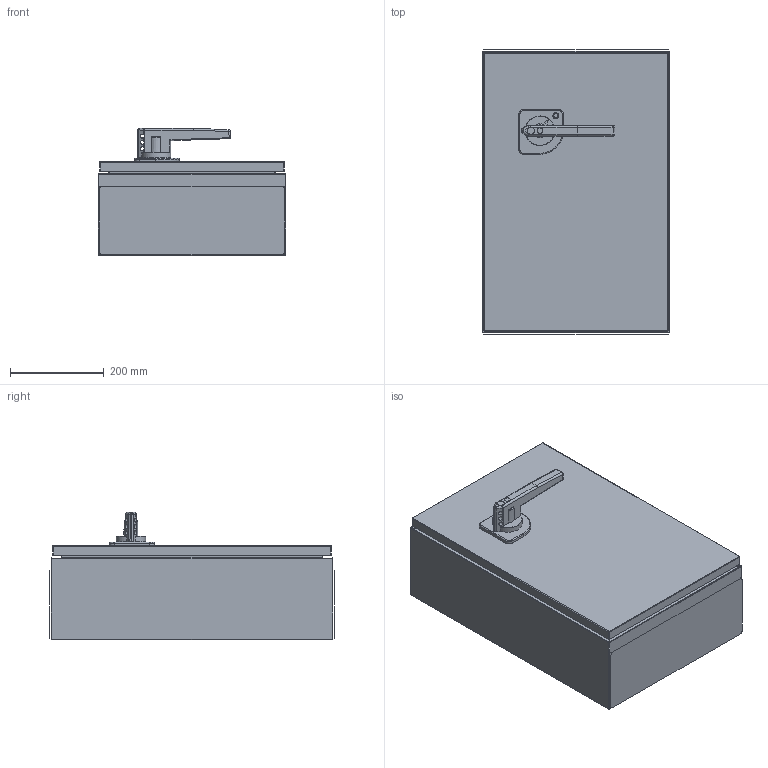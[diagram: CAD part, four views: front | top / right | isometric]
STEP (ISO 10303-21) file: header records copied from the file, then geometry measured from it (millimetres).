
FILE_DESCRIPTION(/* description */ (''),/* implementation_level */ '2;1');
FILE_NAME(/* name */ '4003058.stp',/* time_stamp */ '2016-09-22T13:48:22+02:00',/* author */ (''),/* organization */ (''),/* preprocessor_version */ 'ST-DEVELOPER v16',/* originating_system */ 'SIEMENS PLM Software NX 11.0',/* authorisation */ '');
FILE_SCHEMA (('AUTOMOTIVE_DESIGN { 1 0 10303 214 3 1 1 1 }'));
Length unit declared in the file: millimetre
Products named in the file (1): 4003058_LINKEDEXT_jt
Bounding box: 400 x 606 x 271.5 mm (x, y, z)
Surface area: 990040.6 mm2 (no closed solid volume)
Topology: 0 solids, 25 shells, 116 faces, 403 edges, 293 vertices
Faces by surface type: cylinder 45, plane 45, torus 9, bspline 9, sphere 5, cone 3
Full cylindrical faces by diameter (mm): 8 x4, 8.5 x6
Entity records: 5287 total; most frequent: CARTESIAN_POINT 1336, DIRECTION 667, ORIENTED_EDGE 552, EDGE_CURVE 384, VERTEX_POINT 287, AXIS2_PLACEMENT_3D 231, LINE 205, VECTOR 205
